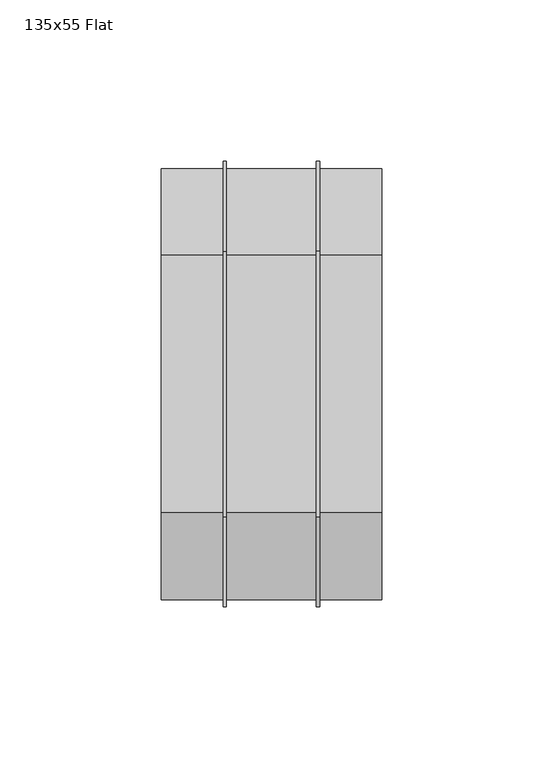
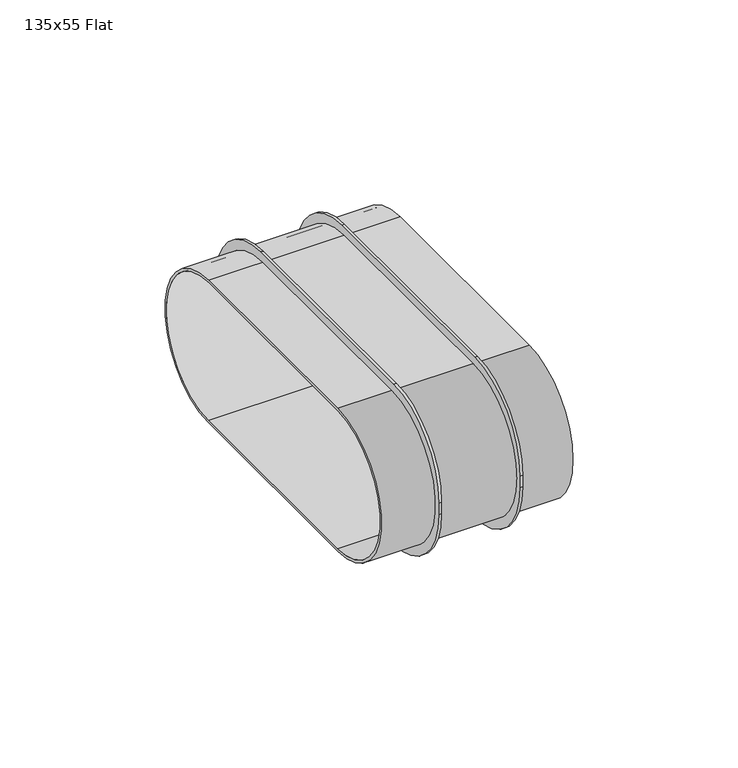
"""IFC4 building model written with IfcOpenShell, lengths in millimetres: duct fitting geometry, Renson_Easyflex_Flat_Coupling_Oval_S : 135x55 Flat."""

from ifc_helpers import new_model, si_unit, point, frame, frame_2d, origin, place, context, project, spatial, polyline, circle_curve, trimmed, segment, composite_curve, outline, extrude, source, transform, mapped, element, save


def duct_fitting_135x55_flat_15a27078(model_context):
    return source(origin(), model_context, "Body", "SweptSolid", [
        extrude(outline(composite_curve([segment(polyline([(69.2, 2.2), (69.2, -2.2)]), True, "CONTINUOUS"), segment(trimmed(circle_curve(frame_2d((41.2, -2.2)), 28.0), [point((69.2, -2.2))], [point((41.2, -30.2))], False, "CARTESIAN"), True, "CONTINUOUS"), segment(polyline([(41.2, -30.2), (-41.2, -30.2)]), True, "CONTINUOUS"), segment(trimmed(circle_curve(frame_2d((-41.2, -2.2)), 28.0), [point((-41.2, -30.2))], [point((-69.2, -2.2))], False, "CARTESIAN"), True, "CONTINUOUS"), segment(polyline([(-69.2, -2.2), (-69.2, 2.2)]), True, "CONTINUOUS"), segment(trimmed(circle_curve(frame_2d((-41.2, 2.2)), 28.0), [point((-69.2, 2.2))], [point((-41.2, 30.2))], False, "CARTESIAN"), True, "CONTINUOUS"), segment(polyline([(-41.2, 30.2), (41.2, 30.2)]), True, "CONTINUOUS"), segment(trimmed(circle_curve(frame_2d((41.2, 2.2)), 28.0), [point((41.2, 30.2))], [point((69.2, 2.2))], False, "CARTESIAN"), True, "CONTINUOUS")], self_intersect=False), holes=[composite_curve([segment(trimmed(circle_curve(frame_2d((40.0269486, 0.0)), 27.0), [point((40.0269486, -27.0))], [point((40.0269486, 27.0))], True, "CARTESIAN"), True, "CONTINUOUS"), segment(polyline([(40.0269486, 27.0), (-40.0269486, 27.0)]), True, "CONTINUOUS"), segment(trimmed(circle_curve(frame_2d((-40.0269486, 0.0)), 27.0), [point((-40.0269486, 27.0))], [point((-40.0269486, -27.0))], True, "CARTESIAN"), True, "CONTINUOUS"), segment(polyline([(-40.0269486, -27.0), (40.0269486, -27.0)]), True, "CONTINUOUS")], self_intersect=False)]), frame((-15.0, 0.0, 0.0), z_axis=(1.0, 0.0, 0.0), x_axis=(0.0, 1.0, 0.0)), (0.0, 0.0, 1.0), 1.0),
        extrude(outline(composite_curve([segment(polyline([(40.0269486, -27.0), (-40.0269486, -27.0)]), True, "CONTINUOUS"), segment(trimmed(circle_curve(frame_2d((-40.0269486, 0.0)), 27.0), [point((-40.0269486, -27.0))], [point((-40.0269486, 27.0))], False, "CARTESIAN"), True, "CONTINUOUS"), segment(polyline([(-40.0269486, 27.0), (40.0269486, 27.0)]), True, "CONTINUOUS"), segment(trimmed(circle_curve(frame_2d((40.0269486, 0.0)), 27.0), [point((40.0269486, 27.0))], [point((40.0269486, -27.0))], False, "CARTESIAN"), True, "CONTINUOUS")], self_intersect=False), holes=[composite_curve([segment(trimmed(circle_curve(frame_2d((40.0269486, 0.0)), 26.0), [point((40.0269486, -26.0))], [point((40.0269486, 26.0))], True, "CARTESIAN"), True, "CONTINUOUS"), segment(polyline([(40.0269486, 26.0), (-40.0269486, 26.0)]), True, "CONTINUOUS"), segment(trimmed(circle_curve(frame_2d((-40.0269486, 0.0)), 26.0), [point((-40.0269486, 26.0))], [point((-40.0269486, -26.0))], True, "CARTESIAN"), True, "CONTINUOUS"), segment(polyline([(-40.0269486, -26.0), (40.0269486, -26.0)]), True, "CONTINUOUS")], self_intersect=False)]), frame((-34.25, 0.0, 0.0), z_axis=(1.0, 0.0, 0.0), x_axis=(0.0, 1.0, 0.0)), (0.0, 0.0, 1.0), 68.5),
        extrude(outline(composite_curve([segment(polyline([(-41.2, 30.2), (41.2, 30.2)]), True, "CONTINUOUS"), segment(trimmed(circle_curve(frame_2d((41.2, 2.2)), 28.0), [point((41.2, 30.2))], [point((69.2, 2.2))], False, "CARTESIAN"), True, "CONTINUOUS"), segment(polyline([(69.2, 2.2), (69.2, -2.2)]), True, "CONTINUOUS"), segment(trimmed(circle_curve(frame_2d((41.2, -2.2)), 28.0), [point((69.2, -2.2))], [point((41.2, -30.2))], False, "CARTESIAN"), True, "CONTINUOUS"), segment(polyline([(41.2, -30.2), (-41.2, -30.2)]), True, "CONTINUOUS"), segment(trimmed(circle_curve(frame_2d((-41.2, -2.2)), 28.0), [point((-41.2, -30.2))], [point((-69.2, -2.2))], False, "CARTESIAN"), True, "CONTINUOUS"), segment(polyline([(-69.2, -2.2), (-69.2, 2.2)]), True, "CONTINUOUS"), segment(trimmed(circle_curve(frame_2d((-41.2, 2.2)), 28.0), [point((-69.2, 2.2))], [point((-41.2, 30.2))], False, "CARTESIAN"), True, "CONTINUOUS")], self_intersect=False), holes=[composite_curve([segment(trimmed(circle_curve(frame_2d((-40.0269486, 0.0)), 27.0), [point((-40.0269486, 27.0))], [point((-40.0269486, -27.0))], True, "CARTESIAN"), True, "CONTINUOUS"), segment(polyline([(-40.0269486, -27.0), (40.0269486, -27.0)]), True, "CONTINUOUS"), segment(trimmed(circle_curve(frame_2d((40.0269486, 0.0)), 27.0), [point((40.0269486, -27.0))], [point((40.0269486, 27.0))], True, "CARTESIAN"), True, "CONTINUOUS"), segment(polyline([(40.0269486, 27.0), (-40.0269486, 27.0)]), True, "CONTINUOUS")], self_intersect=False)]), frame((14.0, 0.0, 0.0), z_axis=(1.0, 0.0, 0.0), x_axis=(0.0, 1.0, 0.0)), (0.0, 0.0, 1.0), 1.0),
    ])


if __name__ == "__main__":
    model = new_model("IFC4")
    model_context = context("Model", 3, world=origin())
    ifc_project = project(units=[si_unit("LENGTHUNIT", "METRE", prefix="MILLI")], contexts=[model_context])
    site = spatial("IfcSite", under=ifc_project)
    building = spatial("IfcBuilding", under=site)
    placement = place(None, origin())
    duct_fitting_135x55_flat_shape = duct_fitting_135x55_flat_15a27078(model_context)
    element("IfcDuctFitting", 1, ObjectType="Renson_Easyflex_Flat_Coupling_Oval_S : 135x55 Flat", at=placement, inside=building, context=model_context, shape_type="MappedRepresentation", body=[
        mapped(duct_fitting_135x55_flat_shape, transform((0.0, 0.0, 0.0), x_axis=(1.0, 0.0, 0.0), y_axis=(0.0, 1.0, 0.0), z_axis=(0.0, 0.0, 1.0))),
    ])
    save(model, "model.ifc")
